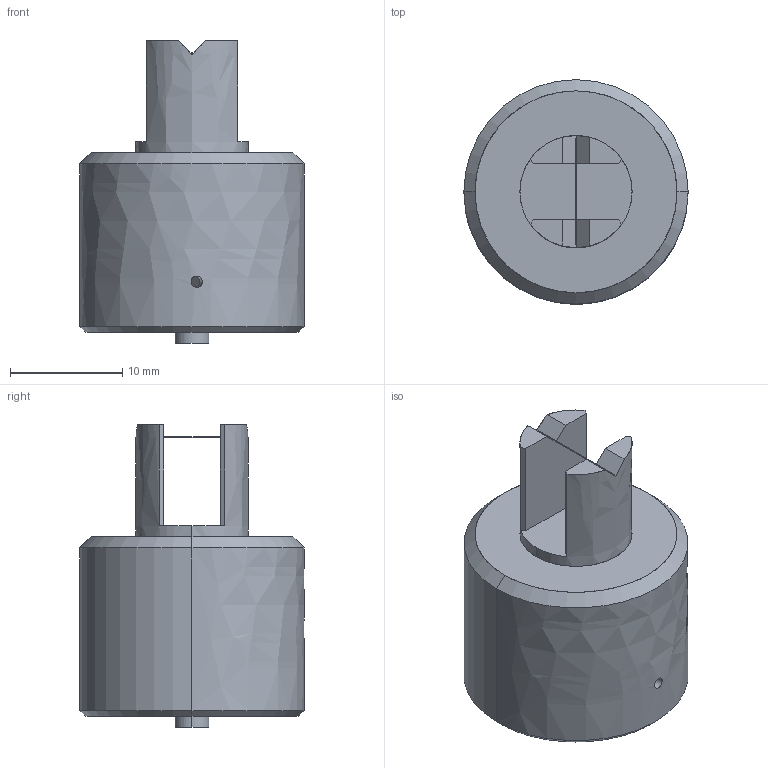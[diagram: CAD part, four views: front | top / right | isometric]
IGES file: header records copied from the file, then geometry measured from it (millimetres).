
Start section: SolidWorks IGES file using analytic representation for surfaces
Bounding box: 20 x 20 x 27 mm (x, y, z)
Surface area: 2850.8 mm2 (no closed solid volume)
Topology: 0 solids, 0 shells, 40 faces, 487 edges, 486 vertices
Faces by surface type: bspline 22, revolution 18
